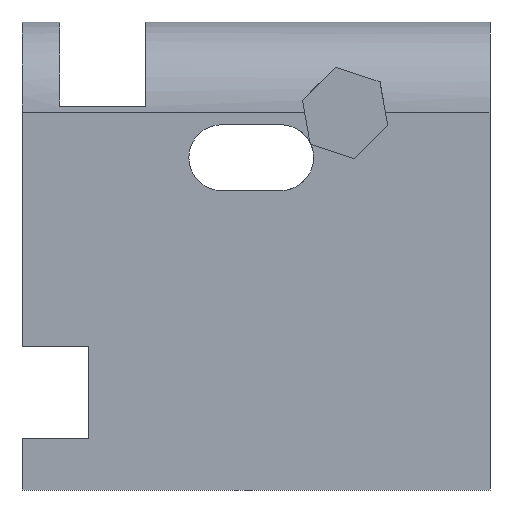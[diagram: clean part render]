
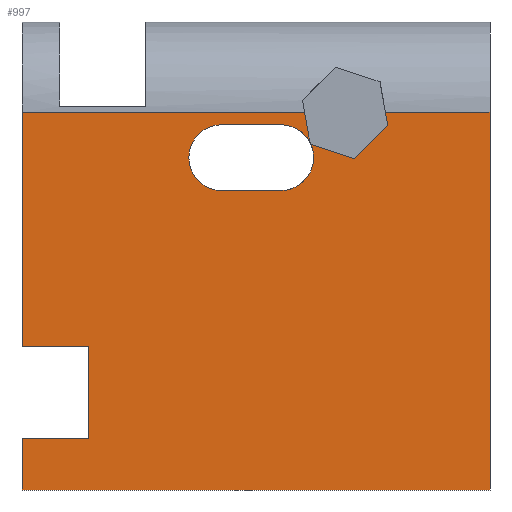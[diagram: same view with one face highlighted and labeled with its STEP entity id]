
A CAD part, front view. The second image highlights one B-rep face of the part: STEP entity #997.
In plain terms, the highlighted planar face has unit normal (0, -1, 0).
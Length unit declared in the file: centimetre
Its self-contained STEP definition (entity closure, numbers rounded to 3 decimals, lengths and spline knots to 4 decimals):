
#7 = CARTESIAN_POINT ( 'NONE',  ( 0., 0., 305.7471 ) ) ;
#24 = VECTOR ( 'NONE', #565, 100. ) ;
#42 = CARTESIAN_POINT ( 'NONE',  ( 0., 0., 1000. ) ) ;
#46 = AXIS2_PLACEMENT_3D ( 'NONE', #1153, #1230, #1045 ) ;
#53 = CARTESIAN_POINT ( 'NONE',  ( 617.5394, 0., 738.0537 ) ) ;
#54 = ORIENTED_EDGE ( 'NONE', *, *, #681, .F. ) ;
#56 = DIRECTION ( 'NONE',  ( -1., 0., 0. ) ) ;
#67 = ORIENTED_EDGE ( 'NONE', *, *, #1189, .F. ) ;
#89 = CARTESIAN_POINT ( 'NONE',  ( 710.8806, 0., 707.354 ) ) ;
#94 = CARTESIAN_POINT ( 'NONE',  ( 615.8161, 0., 738.6205 ) ) ;
#99 = VECTOR ( 'NONE', #177, 100. ) ;
#103 = LINE ( 'NONE', #706, #849 ) ;
#107 = CARTESIAN_POINT ( 'NONE',  ( 603.8314, 0., 806.9119 ) ) ;
#109 = CARTESIAN_POINT ( 'NONE',  ( 426.8804, 0., 780.4244 ) ) ;
#113 = VERTEX_POINT ( 'NONE', #253 ) ;
#121 = VERTEX_POINT ( 'NONE', #772 ) ;
#132 = EDGE_CURVE ( 'NONE', #558, #622, #782, .T. ) ;
#139 = CARTESIAN_POINT ( 'NONE',  ( 426.8804, 0., 639.8575 ) ) ;
#177 = DIRECTION ( 'NONE',  ( 0.95, 0., -0.312 ) ) ;
#197 = AXIS2_PLACEMENT_3D ( 'NONE', #822, #1132, #1024 ) ;
#204 = CARTESIAN_POINT ( 'NONE',  ( 0., 0., 0. ) ) ;
#208 = ORIENTED_EDGE ( 'NONE', *, *, #965, .T. ) ;
#210 = VERTEX_POINT ( 'NONE', #1101 ) ;
#226 = CARTESIAN_POINT ( 'NONE',  ( 1000., 0., 1000. ) ) ;
#249 = LINE ( 'NONE', #439, #891 ) ;
#253 = CARTESIAN_POINT ( 'NONE',  ( 1000., 0., 0. ) ) ;
#260 = CARTESIAN_POINT ( 'NONE',  ( 0., 0., 806.9119 ) ) ;
#274 = CARTESIAN_POINT ( 'NONE',  ( 0., 0., 806.9119 ) ) ;
#276 = VERTEX_POINT ( 'NONE', #702 ) ;
#284 = ORIENTED_EDGE ( 'NONE', *, *, #637, .F. ) ;
#295 = VECTOR ( 'NONE', #303, 100. ) ;
#303 = DIRECTION ( 'NONE',  ( 0., 0., -1. ) ) ;
#304 = VERTEX_POINT ( 'NONE', #940 ) ;
#309 = EDGE_CURVE ( 'NONE', #1115, #210, #636, .T. ) ;
#319 = ORIENTED_EDGE ( 'NONE', *, *, #851, .T. ) ;
#320 = ORIENTED_EDGE ( 'NONE', *, *, #1204, .F. ) ;
#333 = DIRECTION ( 'NONE',  ( -0.173, 0., 0.985 ) ) ;
#344 = CARTESIAN_POINT ( 'NONE',  ( 553.0364, 0., 710.141 ) ) ;
#354 = CARTESIAN_POINT ( 'NONE',  ( 776.4604, 0., 806.9119 ) ) ;
#378 = CARTESIAN_POINT ( 'NONE',  ( 599.3189, 0., 832.6247 ) ) ;
#379 = DIRECTION ( 'NONE',  ( -1., 0., 0. ) ) ;
#383 = EDGE_CURVE ( 'NONE', #541, #276, #543, .T. ) ;
#405 = ORIENTED_EDGE ( 'NONE', *, *, #1114, .T. ) ;
#407 = LINE ( 'NONE', #42, #500 ) ;
#409 = AXIS2_PLACEMENT_3D ( 'NONE', #700, #1113, #798 ) ;
#417 = VECTOR ( 'NONE', #379, 100. ) ;
#424 = EDGE_CURVE ( 'NONE', #558, #1115, #725, .T. ) ;
#439 = CARTESIAN_POINT ( 'NONE',  ( 781.5331, 0., 778.0064 ) ) ;
#452 = CARTESIAN_POINT ( 'NONE',  ( 553.0364, 0., 639.8575 ) ) ;
#488 = DIRECTION ( 'NONE',  ( 0., 0., -1. ) ) ;
#490 = CARTESIAN_POINT ( 'NONE',  ( 0., 0., 110.6152 ) ) ;
#491 = VERTEX_POINT ( 'NONE', #354 ) ;
#500 = VECTOR ( 'NONE', #729, 100. ) ;
#508 = PLANE ( 'NONE',  #197 ) ;
#522 = VERTEX_POINT ( 'NONE', #616 ) ;
#541 = VERTEX_POINT ( 'NONE', #109 ) ;
#543 = LINE ( 'NONE', #560, #808 ) ;
#558 = VERTEX_POINT ( 'NONE', #53 ) ;
#560 = CARTESIAN_POINT ( 'NONE',  ( 553.0364, 0., 780.4244 ) ) ;
#565 = DIRECTION ( 'NONE',  ( -1., 0., 0. ) ) ;
#591 = VERTEX_POINT ( 'NONE', #669 ) ;
#614 = DIRECTION ( 'NONE',  ( 0.707, 0., 0.707 ) ) ;
#616 = CARTESIAN_POINT ( 'NONE',  ( 0., 0., 110.6152 ) ) ;
#622 = VERTEX_POINT ( 'NONE', #882 ) ;
#633 = ORIENTED_EDGE ( 'NONE', *, *, #959, .T. ) ;
#636 = LINE ( 'NONE', #139, #417 ) ;
#637 = EDGE_CURVE ( 'NONE', #522, #928, #1082, .T. ) ;
#655 = LINE ( 'NONE', #1054, #661 ) ;
#656 = VECTOR ( 'NONE', #770, 100. ) ;
#657 = LINE ( 'NONE', #1149, #656 ) ;
#661 = VECTOR ( 'NONE', #56, 100. ) ;
#662 = DIRECTION ( 'NONE',  ( 0., 0., -1. ) ) ;
#669 = CARTESIAN_POINT ( 'NONE',  ( 614.9894, 0., 743.331 ) ) ;
#681 = EDGE_CURVE ( 'NONE', #1145, #113, #836, .T. ) ;
#700 = CARTESIAN_POINT ( 'NONE',  ( 426.8804, 0., 710.141 ) ) ;
#702 = CARTESIAN_POINT ( 'NONE',  ( 553.0364, 0., 780.4244 ) ) ;
#706 = CARTESIAN_POINT ( 'NONE',  ( 0., 0., 1000. ) ) ;
#711 = ORIENTED_EDGE ( 'NONE', *, *, #950, .F. ) ;
#725 = CIRCLE ( 'NONE', #46, 70.2834 ) ;
#729 = DIRECTION ( 'NONE',  ( 0., 0., -1. ) ) ;
#761 = DIRECTION ( 'NONE',  ( 1., 0., 0. ) ) ;
#767 = CARTESIAN_POINT ( 'NONE',  ( 1000., 0., 806.9119 ) ) ;
#770 = DIRECTION ( 'NONE',  ( 0., 0., 1. ) ) ;
#772 = CARTESIAN_POINT ( 'NONE',  ( 0., 0., 0. ) ) ;
#782 = LINE ( 'NONE', #94, #99 ) ;
#784 = ORIENTED_EDGE ( 'NONE', *, *, #309, .T. ) ;
#789 = LINE ( 'NONE', #378, #871 ) ;
#798 = DIRECTION ( 'NONE',  ( 0., 0., -1. ) ) ;
#808 = VECTOR ( 'NONE', #761, 100. ) ;
#814 = EDGE_CURVE ( 'NONE', #928, #304, #657, .T. ) ;
#822 = CARTESIAN_POINT ( 'NONE',  ( 0., 0., 1000. ) ) ;
#836 = LINE ( 'NONE', #226, #295 ) ;
#846 = EDGE_CURVE ( 'NONE', #622, #1159, #1168, .T. ) ;
#847 = VECTOR ( 'NONE', #987, 100. ) ;
#849 = VECTOR ( 'NONE', #488, 100. ) ;
#851 = EDGE_CURVE ( 'NONE', #121, #113, #880, .T. ) ;
#871 = VECTOR ( 'NONE', #1193, 100. ) ;
#880 = LINE ( 'NONE', #204, #1078 ) ;
#882 = CARTESIAN_POINT ( 'NONE',  ( 710.8806, 0., 707.354 ) ) ;
#891 = VECTOR ( 'NONE', #333, 100. ) ;
#907 = ORIENTED_EDGE ( 'NONE', *, *, #1038, .T. ) ;
#908 = EDGE_CURVE ( 'NONE', #1208, #1166, #1092, .T. ) ;
#910 = AXIS2_PLACEMENT_3D ( 'NONE', #344, #1063, #662 ) ;
#911 = FACE_OUTER_BOUND ( 'NONE', #1090, .T. ) ;
#928 = VERTEX_POINT ( 'NONE', #1097 ) ;
#936 = ORIENTED_EDGE ( 'NONE', *, *, #1087, .T. ) ;
#940 = CARTESIAN_POINT ( 'NONE',  ( 142.687, 0., 305.7471 ) ) ;
#947 = VERTEX_POINT ( 'NONE', #7 ) ;
#950 = EDGE_CURVE ( 'NONE', #1208, #591, #789, .T. ) ;
#959 = EDGE_CURVE ( 'NONE', #522, #121, #103, .T. ) ;
#965 = EDGE_CURVE ( 'NONE', #210, #541, #1175, .T. ) ;
#987 = DIRECTION ( 'NONE',  ( -1., 0., 0. ) ) ;
#997 = ADVANCED_FACE ( 'NONE', ( #911 ), #508, .F. ) ;
#1021 = ORIENTED_EDGE ( 'NONE', *, *, #846, .F. ) ;
#1024 = DIRECTION ( 'NONE',  ( 0., 0., 1. ) ) ;
#1026 = ORIENTED_EDGE ( 'NONE', *, *, #814, .F. ) ;
#1038 = EDGE_CURVE ( 'NONE', #1166, #947, #407, .T. ) ;
#1044 = CARTESIAN_POINT ( 'NONE',  ( 0., 0., 806.9119 ) ) ;
#1045 = DIRECTION ( 'NONE',  ( 0., 0., -1. ) ) ;
#1054 = CARTESIAN_POINT ( 'NONE',  ( 0., 0., 305.7471 ) ) ;
#1062 = ORIENTED_EDGE ( 'NONE', *, *, #383, .T. ) ;
#1063 = DIRECTION ( 'NONE',  ( 0., 1., 0. ) ) ;
#1078 = VECTOR ( 'NONE', #1182, 100. ) ;
#1082 = LINE ( 'NONE', #490, #1218 ) ;
#1083 = ORIENTED_EDGE ( 'NONE', *, *, #908, .T. ) ;
#1087 = EDGE_CURVE ( 'NONE', #276, #591, #1139, .T. ) ;
#1090 = EDGE_LOOP ( 'NONE', ( #907, #320, #1026, #284, #633, #319, #54, #405, #67, #1021, #1136, #1146, #784, #208, #1062, #936, #711, #1083 ) ) ;
#1092 = LINE ( 'NONE', #274, #847 ) ;
#1097 = CARTESIAN_POINT ( 'NONE',  ( 142.687, 0., 110.6152 ) ) ;
#1098 = VECTOR ( 'NONE', #614, 100. ) ;
#1101 = CARTESIAN_POINT ( 'NONE',  ( 426.8804, 0., 639.8575 ) ) ;
#1113 = DIRECTION ( 'NONE',  ( 0., 1., 0. ) ) ;
#1114 = EDGE_CURVE ( 'NONE', #1145, #491, #1152, .T. ) ;
#1115 = VERTEX_POINT ( 'NONE', #452 ) ;
#1132 = DIRECTION ( 'NONE',  ( 0., 1., 0. ) ) ;
#1136 = ORIENTED_EDGE ( 'NONE', *, *, #132, .F. ) ;
#1139 = CIRCLE ( 'NONE', #910, 70.2834 ) ;
#1145 = VERTEX_POINT ( 'NONE', #767 ) ;
#1146 = ORIENTED_EDGE ( 'NONE', *, *, #424, .T. ) ;
#1149 = CARTESIAN_POINT ( 'NONE',  ( 142.687, 0., 110.6152 ) ) ;
#1152 = LINE ( 'NONE', #1044, #24 ) ;
#1153 = CARTESIAN_POINT ( 'NONE',  ( 553.0364, 0., 710.141 ) ) ;
#1159 = VERTEX_POINT ( 'NONE', #1161 ) ;
#1161 = CARTESIAN_POINT ( 'NONE',  ( 781.5331, 0., 778.0064 ) ) ;
#1166 = VERTEX_POINT ( 'NONE', #260 ) ;
#1168 = LINE ( 'NONE', #89, #1098 ) ;
#1175 = CIRCLE ( 'NONE', #409, 70.2834 ) ;
#1178 = DIRECTION ( 'NONE',  ( 1., 0., 0. ) ) ;
#1182 = DIRECTION ( 'NONE',  ( 1., 0., 0. ) ) ;
#1189 = EDGE_CURVE ( 'NONE', #1159, #491, #249, .T. ) ;
#1193 = DIRECTION ( 'NONE',  ( 0.173, 0., -0.985 ) ) ;
#1204 = EDGE_CURVE ( 'NONE', #304, #947, #655, .T. ) ;
#1208 = VERTEX_POINT ( 'NONE', #107 ) ;
#1218 = VECTOR ( 'NONE', #1178, 100. ) ;
#1230 = DIRECTION ( 'NONE',  ( 0., 1., 0. ) ) ;
